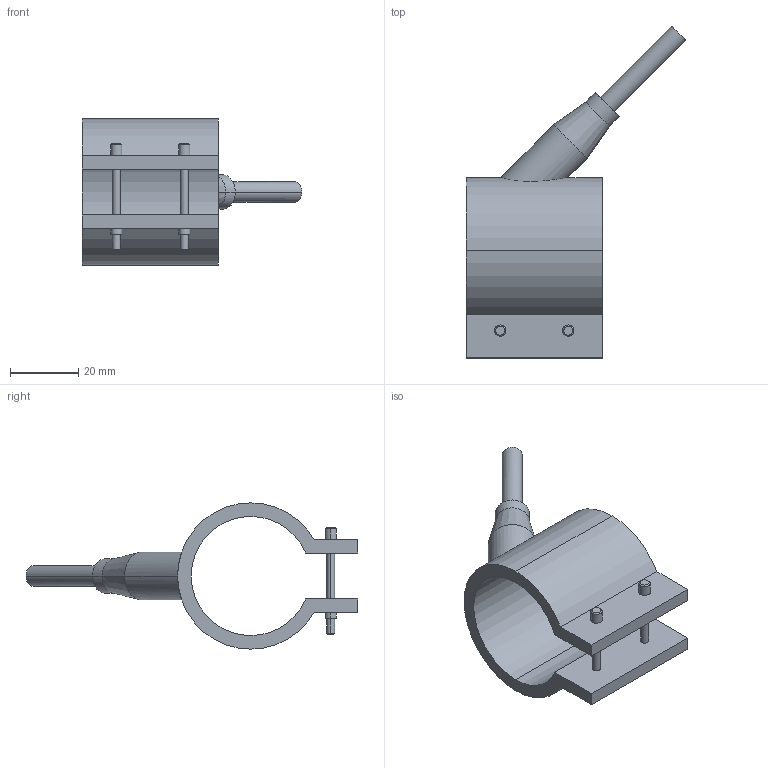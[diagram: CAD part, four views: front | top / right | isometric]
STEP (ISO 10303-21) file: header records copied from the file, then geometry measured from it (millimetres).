
FILE_DESCRIPTION(('CATIA V5 STEP Exchange'),'2;1');
FILE_NAME('C:\Users\Utente\Desktop\IO LAVORO\3D X SITO CF\X SITO\PLASTICA\RF1\29035040.stp','2021-03-27T08:59:55+00:00',('none'),('none'),'CATIA Version 5 Release 20 GA (IN-10)','CATIA V5 STEP AP203','none');
FILE_SCHEMA(('CONFIG_CONTROL_DESIGN'));
Length unit declared in the file: millimetre
Products named in the file (1): 29035040
Bounding box: 64.55 x 97.55 x 43 mm (x, y, z)
Volume: 26271.7 mm3; surface area: 14011.2 mm2
Topology: 1 solids, 1 shells, 54 faces, 123 edges, 79 vertices
Faces by surface type: cylinder 28, plane 16, cone 10
Entity records: 1752 total; most frequent: CARTESIAN_POINT 520, ORIENTED_EDGE 246, DIRECTION 213, EDGE_CURVE 123, AXIS2_PLACEMENT_3D 106, VERTEX_POINT 79, EDGE_LOOP 66, VECTOR 56
